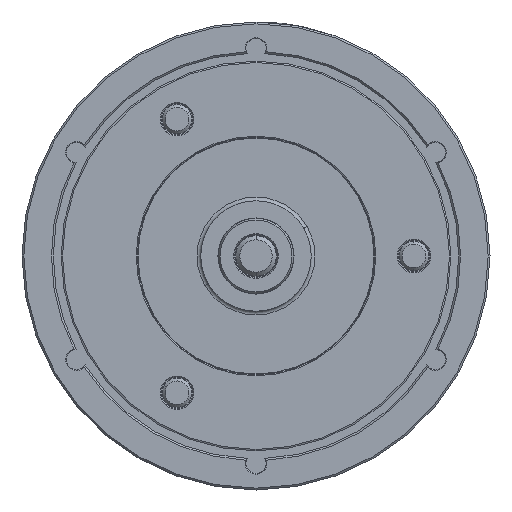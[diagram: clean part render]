
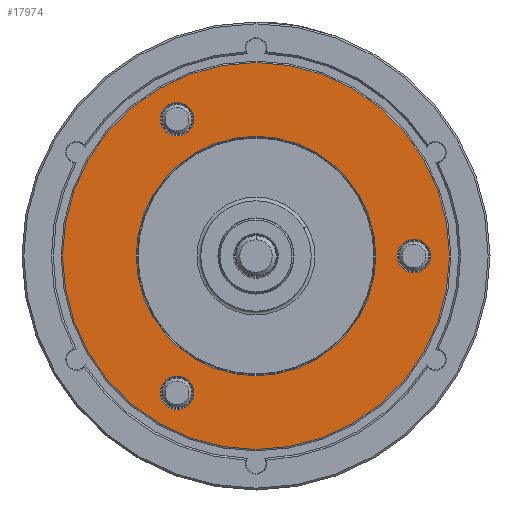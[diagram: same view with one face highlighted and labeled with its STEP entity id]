
A CAD part, left-side view. The second image highlights one B-rep face of the part: STEP entity #17974.
In plain terms, the highlighted planar face has unit normal (-1, 0, 0).
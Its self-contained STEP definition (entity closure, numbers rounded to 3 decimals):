
#204 = AXIS2_PLACEMENT_3D ( 'NONE', #13195, #34591, #9359 ) ;
#401 = AXIS2_PLACEMENT_3D ( 'NONE', #15393, #933, #34356 ) ;
#426 = CIRCLE ( 'NONE', #30386, 9.1 ) ;
#933 = DIRECTION ( 'NONE',  ( 1., 0., 0. ) ) ;
#975 = CIRCLE ( 'NONE', #204, 105. ) ;
#1279 = DIRECTION ( 'NONE',  ( 1., 0., 0. ) ) ;
#1387 = DIRECTION ( 'NONE',  ( 0., 0., -1. ) ) ;
#1939 = FACE_BOUND ( 'NONE', #47061, .T. ) ;
#3152 = CIRCLE ( 'NONE', #43000, 105. ) ;
#3237 = CARTESIAN_POINT ( 'NONE',  ( -100., 42.863, 65.14 ) ) ;
#3310 = DIRECTION ( 'NONE',  ( 0., 0., -1. ) ) ;
#5924 = ORIENTED_EDGE ( 'NONE', *, *, #12355, .T. ) ;
#6058 = VERTEX_POINT ( 'NONE', #21269 ) ;
#7030 = DIRECTION ( 'NONE',  ( 0., 0., -1. ) ) ;
#7239 = ORIENTED_EDGE ( 'NONE', *, *, #44297, .F. ) ;
#7613 = CARTESIAN_POINT ( 'NONE',  ( -100., 90.933, -52.5 ) ) ;
#9359 = DIRECTION ( 'NONE',  ( 0., 0., -1. ) ) ;
#9418 = PLANE ( 'NONE',  #31288 ) ;
#10065 = DIRECTION ( 'NONE',  ( 1., 0., 0. ) ) ;
#10607 = EDGE_CURVE ( 'NONE', #33052, #45494, #44044, .T. ) ;
#11047 = DIRECTION ( 'NONE',  ( 0., 0., -1. ) ) ;
#11065 = DIRECTION ( 'NONE',  ( 0., 0., -1. ) ) ;
#11751 = CARTESIAN_POINT ( 'NONE',  ( -100., 42.863, 74.24 ) ) ;
#12349 = DIRECTION ( 'NONE',  ( 0., 0., -1. ) ) ;
#12355 = EDGE_CURVE ( 'NONE', #31443, #6058, #426, .T. ) ;
#12940 = EDGE_CURVE ( 'NONE', #34913, #36076, #18204, .T. ) ;
#13195 = CARTESIAN_POINT ( 'NONE',  ( -100., 0., 0. ) ) ;
#14569 = CIRCLE ( 'NONE', #19166, 9.1 ) ;
#15276 = VERTEX_POINT ( 'NONE', #17127 ) ;
#15393 = CARTESIAN_POINT ( 'NONE',  ( -100., -85.725, 0. ) ) ;
#16504 = EDGE_CURVE ( 'NONE', #45494, #33052, #35056, .T. ) ;
#17046 = ORIENTED_EDGE ( 'NONE', *, *, #33099, .F. ) ;
#17127 = CARTESIAN_POINT ( 'NONE',  ( -100., -85.725, -9.1 ) ) ;
#17411 = DIRECTION ( 'NONE',  ( 1., 0., 0. ) ) ;
#17721 = CARTESIAN_POINT ( 'NONE',  ( -100., -85.725, 9.1 ) ) ;
#17974 = ADVANCED_FACE ( 'NONE', ( #20256, #1939, #31287, #27712, #42298 ), #9418, .F. ) ;
#18049 = DIRECTION ( 'NONE',  ( 0., 0., -1. ) ) ;
#18204 = CIRCLE ( 'NONE', #40371, 9.1 ) ;
#18292 = CARTESIAN_POINT ( 'NONE',  ( -100., 0., 0. ) ) ;
#18299 = VERTEX_POINT ( 'NONE', #7613 ) ;
#18993 = DIRECTION ( 'NONE',  ( 1., 0., 0. ) ) ;
#19166 = AXIS2_PLACEMENT_3D ( 'NONE', #30005, #40788, #11047 ) ;
#19837 = ORIENTED_EDGE ( 'NONE', *, *, #29539, .T. ) ;
#20256 = FACE_BOUND ( 'NONE', #42077, .T. ) ;
#21048 = ORIENTED_EDGE ( 'NONE', *, *, #10607, .T. ) ;
#21105 = CARTESIAN_POINT ( 'NONE',  ( -100., 42.863, 83.34 ) ) ;
#21269 = CARTESIAN_POINT ( 'NONE',  ( -100., 42.862, -83.34 ) ) ;
#21414 = DIRECTION ( 'NONE',  ( 1., 0., 0. ) ) ;
#22409 = EDGE_CURVE ( 'NONE', #27348, #15276, #24831, .T. ) ;
#22517 = CARTESIAN_POINT ( 'NONE',  ( -100., 42.862, -65.14 ) ) ;
#23073 = AXIS2_PLACEMENT_3D ( 'NONE', #11751, #24021, #45833 ) ;
#23386 = AXIS2_PLACEMENT_3D ( 'NONE', #47483, #10065, #40038 ) ;
#23569 = VERTEX_POINT ( 'NONE', #40209 ) ;
#24021 = DIRECTION ( 'NONE',  ( 1., 0., 0. ) ) ;
#24831 = CIRCLE ( 'NONE', #36287, 9.1 ) ;
#25202 = ORIENTED_EDGE ( 'NONE', *, *, #16504, .T. ) ;
#26939 = ORIENTED_EDGE ( 'NONE', *, *, #22409, .T. ) ;
#27348 = VERTEX_POINT ( 'NONE', #17721 ) ;
#27712 = FACE_OUTER_BOUND ( 'NONE', #34235, .T. ) ;
#28693 = EDGE_LOOP ( 'NONE', ( #21048, #25202 ) ) ;
#29168 = EDGE_CURVE ( 'NONE', #36076, #34913, #29917, .T. ) ;
#29539 = EDGE_CURVE ( 'NONE', #6058, #31443, #14569, .T. ) ;
#29917 = CIRCLE ( 'NONE', #23073, 9.1 ) ;
#30005 = CARTESIAN_POINT ( 'NONE',  ( -100., 42.862, -74.24 ) ) ;
#30386 = AXIS2_PLACEMENT_3D ( 'NONE', #36226, #32631, #3310 ) ;
#31238 = ORIENTED_EDGE ( 'NONE', *, *, #29168, .T. ) ;
#31287 = FACE_BOUND ( 'NONE', #28693, .T. ) ;
#31288 = AXIS2_PLACEMENT_3D ( 'NONE', #44857, #18993, #1387 ) ;
#31443 = VERTEX_POINT ( 'NONE', #22517 ) ;
#32631 = DIRECTION ( 'NONE',  ( 1., 0., 0. ) ) ;
#33052 = VERTEX_POINT ( 'NONE', #40063 ) ;
#33078 = CARTESIAN_POINT ( 'NONE',  ( -100., -56.292, 32.5 ) ) ;
#33099 = EDGE_CURVE ( 'NONE', #23569, #18299, #3152, .T. ) ;
#34217 = CARTESIAN_POINT ( 'NONE',  ( -100., 42.863, 74.24 ) ) ;
#34235 = EDGE_LOOP ( 'NONE', ( #17046, #7239 ) ) ;
#34356 = DIRECTION ( 'NONE',  ( 0., 0., -1. ) ) ;
#34591 = DIRECTION ( 'NONE',  ( 1., 0., 0. ) ) ;
#34913 = VERTEX_POINT ( 'NONE', #21105 ) ;
#35056 = CIRCLE ( 'NONE', #41138, 65. ) ;
#35729 = CIRCLE ( 'NONE', #401, 9.1 ) ;
#36076 = VERTEX_POINT ( 'NONE', #3237 ) ;
#36226 = CARTESIAN_POINT ( 'NONE',  ( -100., 42.862, -74.24 ) ) ;
#36287 = AXIS2_PLACEMENT_3D ( 'NONE', #40337, #44179, #11065 ) ;
#38187 = ORIENTED_EDGE ( 'NONE', *, *, #40376, .T. ) ;
#39906 = CARTESIAN_POINT ( 'NONE',  ( -100., 0., 0. ) ) ;
#40038 = DIRECTION ( 'NONE',  ( 0., 0., -1. ) ) ;
#40058 = EDGE_LOOP ( 'NONE', ( #45425, #31238 ) ) ;
#40063 = CARTESIAN_POINT ( 'NONE',  ( -100., 56.292, -32.5 ) ) ;
#40209 = CARTESIAN_POINT ( 'NONE',  ( -100., -90.933, 52.5 ) ) ;
#40337 = CARTESIAN_POINT ( 'NONE',  ( -100., -85.725, 0. ) ) ;
#40371 = AXIS2_PLACEMENT_3D ( 'NONE', #34217, #1279, #12349 ) ;
#40376 = EDGE_CURVE ( 'NONE', #15276, #27348, #35729, .T. ) ;
#40788 = DIRECTION ( 'NONE',  ( 1., 0., 0. ) ) ;
#41138 = AXIS2_PLACEMENT_3D ( 'NONE', #39906, #17411, #7030 ) ;
#42077 = EDGE_LOOP ( 'NONE', ( #26939, #38187 ) ) ;
#42298 = FACE_BOUND ( 'NONE', #40058, .T. ) ;
#43000 = AXIS2_PLACEMENT_3D ( 'NONE', #18292, #21414, #18049 ) ;
#44044 = CIRCLE ( 'NONE', #23386, 65. ) ;
#44179 = DIRECTION ( 'NONE',  ( 1., 0., 0. ) ) ;
#44297 = EDGE_CURVE ( 'NONE', #18299, #23569, #975, .T. ) ;
#44857 = CARTESIAN_POINT ( 'NONE',  ( -100., -105., 0. ) ) ;
#45425 = ORIENTED_EDGE ( 'NONE', *, *, #12940, .T. ) ;
#45494 = VERTEX_POINT ( 'NONE', #33078 ) ;
#45833 = DIRECTION ( 'NONE',  ( 0., 0., -1. ) ) ;
#47061 = EDGE_LOOP ( 'NONE', ( #5924, #19837 ) ) ;
#47483 = CARTESIAN_POINT ( 'NONE',  ( -100., 0., 0. ) ) ;
